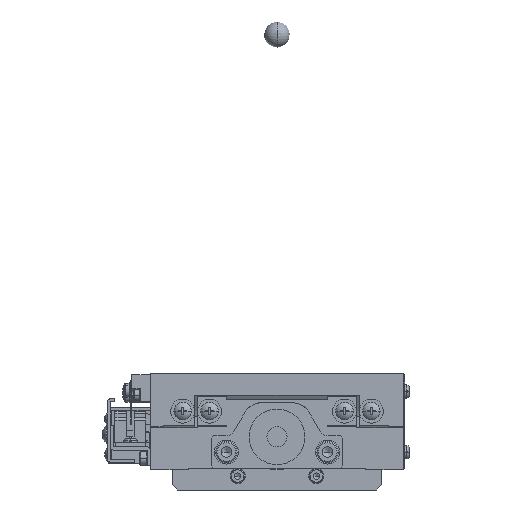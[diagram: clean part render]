
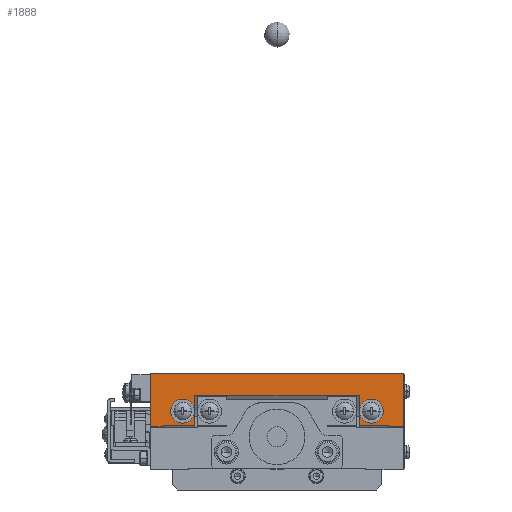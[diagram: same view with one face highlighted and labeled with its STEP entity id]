
A CAD part, left-side view. The second image highlights one B-rep face of the part: STEP entity #1888.
In plain terms, the highlighted planar face has unit normal (-1, 0, 0).
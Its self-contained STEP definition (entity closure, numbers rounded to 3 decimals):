
#1888=ADVANCED_FACE('',(#20373,#20374,#20375),#20372,.T.);
#20372=PLANE('',#39986);
#20373=FACE_OUTER_BOUND('',#39987,.T.);
#20374=FACE_BOUND('',#39988,.T.);
#20375=FACE_BOUND('',#39989,.T.);
#39983=CARTESIAN_POINT('',(-50.,-60.,14.975));
#39984=DIRECTION('',(-1.,0.,0.));
#39985=DIRECTION('',(0.,0.,1.));
#39986=AXIS2_PLACEMENT_3D('',#39983,#39984,#39985);
#39987=EDGE_LOOP('',(#54155,#54156,#54157,#54158,#54159,#54160,#54161,#54162,#54163,#54164,#54165,#54166));
#39988=EDGE_LOOP('',(#54167,#54168));
#39989=EDGE_LOOP('',(#54169,#54170));
#54155=ORIENTED_EDGE('',*,*,#63125,.F.);
#54156=ORIENTED_EDGE('',*,*,#63126,.F.);
#54157=ORIENTED_EDGE('',*,*,#63085,.T.);
#54158=ORIENTED_EDGE('',*,*,#63127,.F.);
#54159=ORIENTED_EDGE('',*,*,#63082,.T.);
#54160=ORIENTED_EDGE('',*,*,#63080,.F.);
#54161=ORIENTED_EDGE('',*,*,#63077,.F.);
#54162=ORIENTED_EDGE('',*,*,#63128,.F.);
#54163=ORIENTED_EDGE('',*,*,#63060,.F.);
#54164=ORIENTED_EDGE('',*,*,#63073,.F.);
#54165=ORIENTED_EDGE('',*,*,#63065,.T.);
#54166=ORIENTED_EDGE('',*,*,#63091,.T.);
#54167=ORIENTED_EDGE('',*,*,#63129,.T.);
#54168=ORIENTED_EDGE('',*,*,#63130,.T.);
#54169=ORIENTED_EDGE('',*,*,#63131,.T.);
#54170=ORIENTED_EDGE('',*,*,#63132,.T.);
#63060=EDGE_CURVE('',#93843,#93829,#93850,.T.);
#63065=EDGE_CURVE('',#93885,#93878,#93886,.T.);
#63073=EDGE_CURVE('',#93885,#93843,#93938,.T.);
#63077=EDGE_CURVE('',#93959,#93945,#93966,.T.);
#63080=EDGE_CURVE('',#93945,#93973,#93986,.T.);
#63082=EDGE_CURVE('',#93999,#93973,#94000,.T.);
#63085=EDGE_CURVE('',#94020,#94012,#94021,.T.);
#63091=EDGE_CURVE('',#93878,#94054,#94062,.T.);
#63125=EDGE_CURVE('',#94298,#94054,#94299,.T.);
#63126=EDGE_CURVE('',#94020,#94298,#94305,.T.);
#63127=EDGE_CURVE('',#93999,#94012,#94311,.T.);
#63128=EDGE_CURVE('',#93829,#93959,#94317,.T.);
#63129=EDGE_CURVE('',#94323,#94324,#94325,.T.);
#63130=EDGE_CURVE('',#94324,#94323,#94331,.T.);
#63131=EDGE_CURVE('',#94337,#94338,#94339,.T.);
#63132=EDGE_CURVE('',#94338,#94337,#94345,.T.);
#93829=VERTEX_POINT('',#127081);
#93843=VERTEX_POINT('',#127090);
#93850=LINE('',#127095,#127096);
#93878=VERTEX_POINT('',#127113);
#93885=VERTEX_POINT('',#127117);
#93886=LINE('',#127118,#127119);
#93938=LINE('',#127149,#127150);
#93945=VERTEX_POINT('',#127153);
#93959=VERTEX_POINT('',#127162);
#93966=LINE('',#127167,#127168);
#93973=VERTEX_POINT('',#127171);
#93986=LINE('',#127179,#127180);
#93999=VERTEX_POINT('',#127186);
#94000=LINE('',#127187,#127188);
#94012=VERTEX_POINT('',#127194);
#94020=VERTEX_POINT('',#127200);
#94021=LINE('',#127201,#127202);
#94054=VERTEX_POINT('',#127222);
#94062=LINE('',#127227,#127228);
#94298=VERTEX_POINT('',#127393);
#94299=LINE('',#127394,#127395);
#94305=LINE('',#127397,#127398);
#94311=LINE('',#127400,#127401);
#94317=LINE('',#127403,#127404);
#94323=VERTEX_POINT('',#127406);
#94324=VERTEX_POINT('',#127407);
#94325=CIRCLE('',#127411,4.75);
#94331=CIRCLE('',#127415,4.75);
#94337=VERTEX_POINT('',#127416);
#94338=VERTEX_POINT('',#127417);
#94339=CIRCLE('',#127421,4.75);
#94345=CIRCLE('',#127425,4.75);
#127081=CARTESIAN_POINT('',(-50.,-44.,17.384));
#127090=CARTESIAN_POINT('',(-50.,-44.,17.068));
#127095=CARTESIAN_POINT('',(-50.,-44.,17.068));
#127096=VECTOR('',#127097,0.315);
#127097=DIRECTION('',(0.,0.,1.));
#127113=CARTESIAN_POINT('',(-50.,-50.,38.));
#127117=CARTESIAN_POINT('',(-50.,-50.,17.068));
#127118=CARTESIAN_POINT('',(-50.,-50.,17.068));
#127119=VECTOR('',#127120,20.932);
#127120=DIRECTION('',(0.,0.,1.));
#127149=CARTESIAN_POINT('',(-50.,-50.,17.068));
#127150=VECTOR('',#127151,6.);
#127151=DIRECTION('',(0.,1.,0.));
#127153=CARTESIAN_POINT('',(-50.,-32.5,29.518));
#127162=CARTESIAN_POINT('',(-50.,-32.5,17.384));
#127167=CARTESIAN_POINT('',(-50.,-32.5,17.384));
#127168=VECTOR('',#127169,12.135);
#127169=DIRECTION('',(0.,0.,1.));
#127171=CARTESIAN_POINT('',(-50.,32.5,29.518));
#127179=CARTESIAN_POINT('',(-50.,-32.5,29.518));
#127180=VECTOR('',#127181,65.);
#127181=DIRECTION('',(0.,1.,0.));
#127186=CARTESIAN_POINT('',(-50.,32.5,17.384));
#127187=CARTESIAN_POINT('',(-50.,32.5,17.384));
#127188=VECTOR('',#127189,12.135);
#127189=DIRECTION('',(0.,0.,1.));
#127194=CARTESIAN_POINT('',(-50.,45.,17.384));
#127200=CARTESIAN_POINT('',(-50.,45.,17.068));
#127201=CARTESIAN_POINT('',(-50.,45.,17.068));
#127202=VECTOR('',#127203,0.315);
#127203=DIRECTION('',(0.,0.,1.));
#127222=CARTESIAN_POINT('',(-50.,50.,38.));
#127227=CARTESIAN_POINT('',(-50.,-50.,38.));
#127228=VECTOR('',#127229,100.);
#127229=DIRECTION('',(0.,1.,0.));
#127393=CARTESIAN_POINT('',(-50.,50.,17.068));
#127394=CARTESIAN_POINT('',(-50.,50.,17.068));
#127395=VECTOR('',#127396,20.932);
#127396=DIRECTION('',(0.,0.,1.));
#127397=CARTESIAN_POINT('',(-50.,45.,17.068));
#127398=VECTOR('',#127399,5.);
#127399=DIRECTION('',(0.,1.,0.));
#127400=CARTESIAN_POINT('',(-50.,32.5,17.384));
#127401=VECTOR('',#127402,12.5);
#127402=DIRECTION('',(0.,1.,0.));
#127403=CARTESIAN_POINT('',(-50.,-44.,17.384));
#127404=VECTOR('',#127405,11.5);
#127405=DIRECTION('',(0.,1.,0.));
#127406=CARTESIAN_POINT('',(-50.,32.55,23.17));
#127407=CARTESIAN_POINT('',(-50.,42.05,23.17));
#127408=CARTESIAN_POINT('',(-50.,37.3,23.17));
#127409=DIRECTION('',(1.,0.,0.));
#127410=DIRECTION('',(0.,-1.,0.));
#127411=AXIS2_PLACEMENT_3D('',#127408,#127409,#127410);
#127412=CARTESIAN_POINT('',(-50.,37.3,23.17));
#127413=DIRECTION('',(1.,0.,0.));
#127414=DIRECTION('',(0.,-1.,0.));
#127415=AXIS2_PLACEMENT_3D('',#127412,#127413,#127414);
#127416=CARTESIAN_POINT('',(-50.,-42.05,23.17));
#127417=CARTESIAN_POINT('',(-50.,-32.55,23.17));
#127418=CARTESIAN_POINT('',(-50.,-37.3,23.17));
#127419=DIRECTION('',(1.,0.,0.));
#127420=DIRECTION('',(0.,-1.,0.));
#127421=AXIS2_PLACEMENT_3D('',#127418,#127419,#127420);
#127422=CARTESIAN_POINT('',(-50.,-37.3,23.17));
#127423=DIRECTION('',(1.,0.,0.));
#127424=DIRECTION('',(0.,-1.,0.));
#127425=AXIS2_PLACEMENT_3D('',#127422,#127423,#127424);
